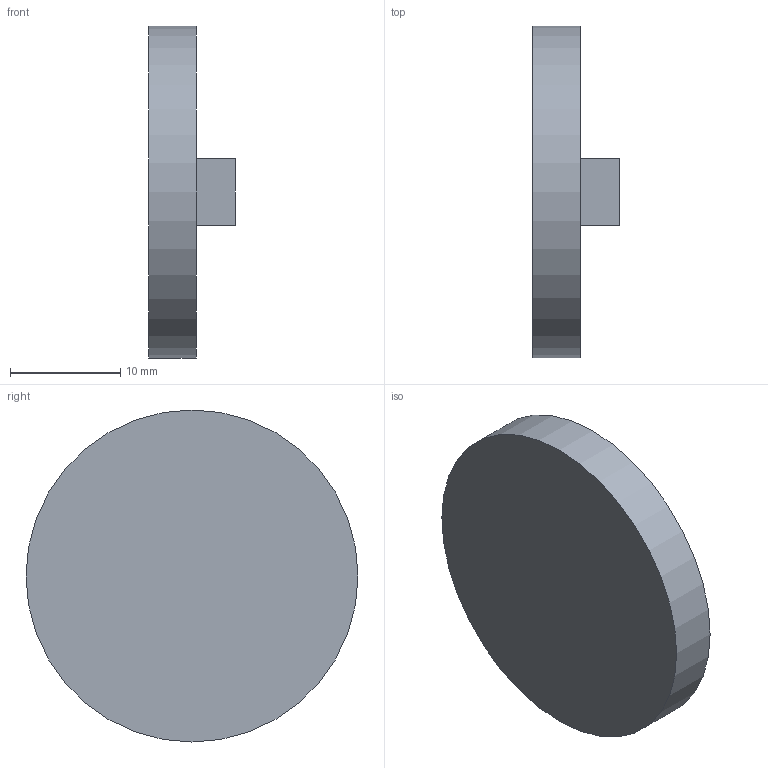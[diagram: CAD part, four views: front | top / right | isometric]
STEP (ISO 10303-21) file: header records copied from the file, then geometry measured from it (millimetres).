
FILE_DESCRIPTION(('FreeCAD Model'),'2;1');
FILE_NAME('Open CASCADE Shape Model','2026-11-20T08:25:35',('FreeCAD'),( 'FreeCAD'),'Open CASCADE STEP processor 7.8','FreeCAD','Unknown');
FILE_SCHEMA(('AUTOMOTIVE_DESIGN { 1 0 10303 214 1 1 1 1 }'));
Length unit declared in the file: millimetre
Products named in the file (1): Open CASCADE STEP translator 7.8 19
Bounding box: 7.85 x 30.1 x 30.1 mm (x, y, z)
Volume: 3187.6 mm3; surface area: 1915 mm2
Topology: 1 solids, 1 shells, 8 faces, 15 edges, 10 vertices
Faces by surface type: plane 7, cylinder 1
Full cylindrical faces by diameter (mm): 30.1 x1
Entity records: 211 total; most frequent: DIRECTION 35, CARTESIAN_POINT 34, ORIENTED_EDGE 30, EDGE_CURVE 15, LINE 13, VECTOR 13, AXIS2_PLACEMENT_3D 11, VERTEX_POINT 10
